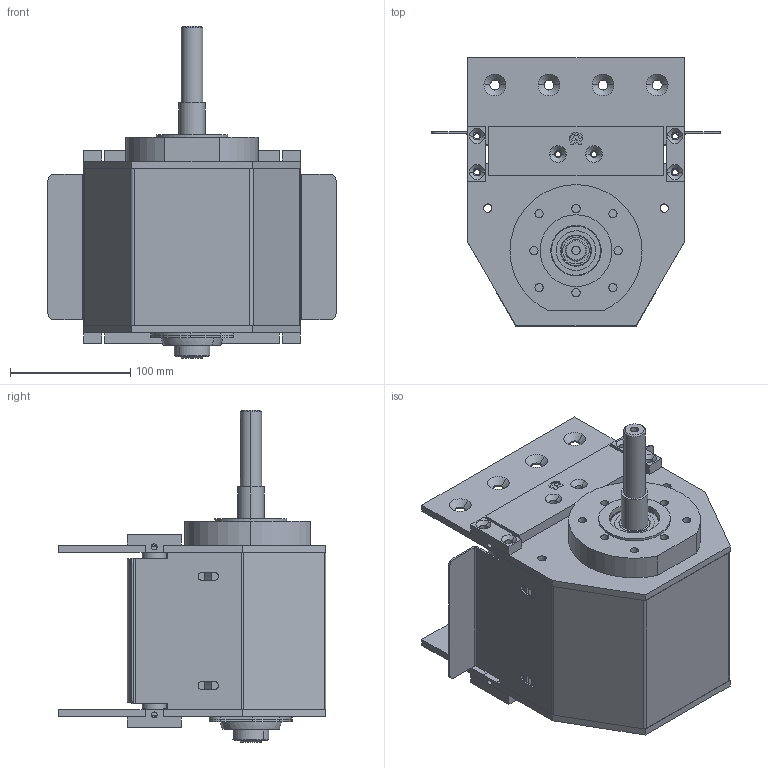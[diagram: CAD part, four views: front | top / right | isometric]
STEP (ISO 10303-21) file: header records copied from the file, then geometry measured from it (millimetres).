
FILE_DESCRIPTION (( 'STEP AP203' ), '1' );
FILE_NAME ('080.050.KCS.44.100.STEP', '2015-02-10T14:45:49', ( '' ), ( '' ), 'SwSTEP 2.0', 'SolidWorks 2012', '' );
FILE_SCHEMA (( 'CONFIG_CONTROL_DESIGN' ));
Length unit declared in the file: millimetre
Products named in the file (1): 080.050.KCS.44.100
Bounding box: 240 x 223 x 276.5 mm (x, y, z)
Surface area: 436410.7 mm2 (no closed solid volume)
Topology: 0 solids, 43 shells, 456 faces, 1569 edges, 1148 vertices
Faces by surface type: cylinder 197, plane 187, cone 58, torus 10, sphere 4
Entity records: 17316 total; most frequent: CARTESIAN_POINT 3230, DIRECTION 3065, ORIENTED_EDGE 2470, EDGE_CURVE 1565, VERTEX_POINT 1146, AXIS2_PLACEMENT_3D 1045, VECTOR 975, LINE 975
